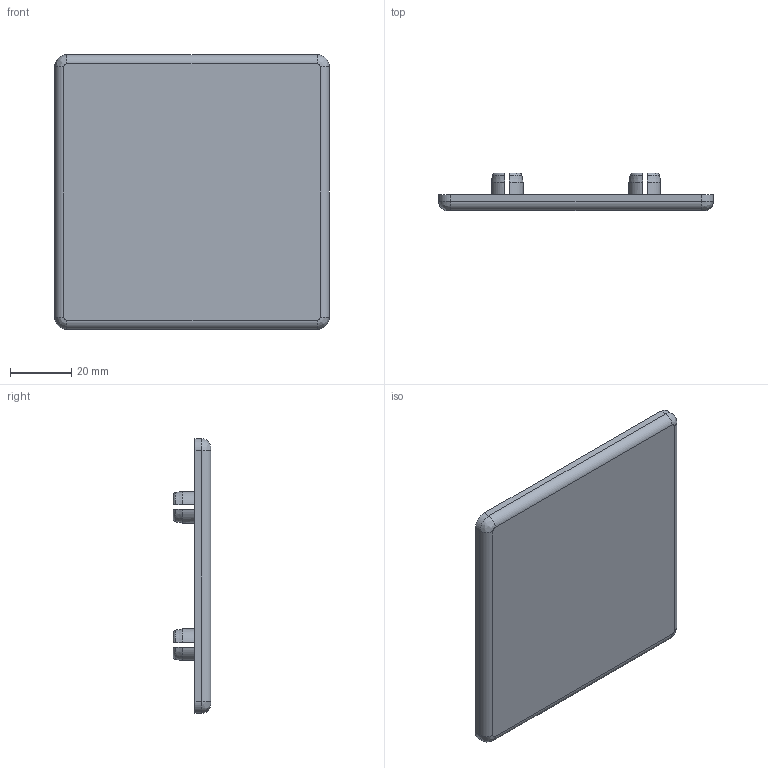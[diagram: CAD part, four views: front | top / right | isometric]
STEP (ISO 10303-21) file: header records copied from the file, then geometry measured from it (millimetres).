
FILE_DESCRIPTION(/* description */ ('STEP AP203'),/* implementation_level */ '2;1');
FILE_NAME(/* name */ 'Plastic End Cap - 45 Series - 90x90.step',/* time_stamp */ '2025-05-14T19:20:58+03:00',/* author */ (''),/* organization */ (''),/* preprocessor_version */ 'ST-DEVELOPER v20.1',/* originating_system */ 'Autodesk Translation Framework v14.4.0.0',/* authorisation */ '');
FILE_SCHEMA (('AUTOMOTIVE_DESIGN { 1 0 10303 214 3 1 1 }'));
Length unit declared in the file: millimetre
Products named in the file (1): 375.1300A
Bounding box: 89.8 x 12.3 x 89.8 mm (x, y, z)
Volume: 21072.5 mm3; surface area: 20718.8 mm2
Topology: 1 solids, 1 shells, 130 faces, 368 edges, 241 vertices
Faces by surface type: plane 66, cylinder 28, cone 16, torus 16, bspline 4
Full cylindrical faces by diameter (mm): 10.5 x4
Entity records: 4551 total; most frequent: CARTESIAN_POINT 1066, DIRECTION 754, ORIENTED_EDGE 736, EDGE_CURVE 368, AXIS2_PLACEMENT_3D 291, VERTEX_POINT 241, LINE 172, VECTOR 172
